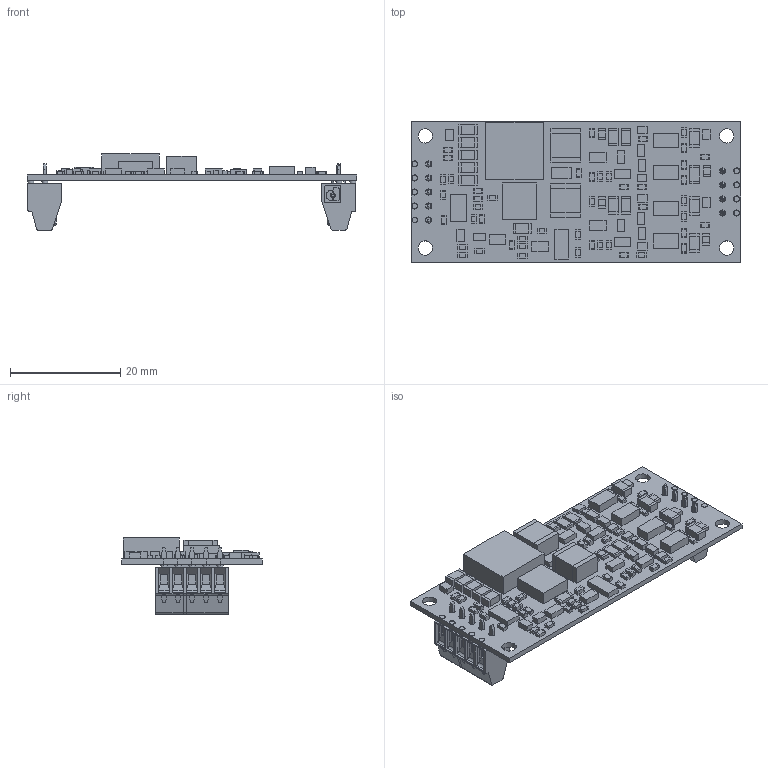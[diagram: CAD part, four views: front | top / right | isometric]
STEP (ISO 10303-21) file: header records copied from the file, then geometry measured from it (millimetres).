
FILE_DESCRIPTION(('Open CASCADE Model'),'2;1');
FILE_NAME('Open CASCADE Shape Model','2026-04-29T09:07:18',('Author'),( 'Open CASCADE'),'Open CASCADE STEP processor 7.5','Open CASCADE 7.5' ,'Unknown');
FILE_SCHEMA(('AUTOMOTIVE_DESIGN { 1 0 10303 214 1 1 1 1 }'));
Length unit declared in the file: millimetre
Products named in the file (182): PCB; Board; Open CASCADE STEP translator 7.5 2.1.1; J_3; 1725656; mpt_0.5-2-2.54; J_2; J_1; pxc_1725669_05_MPT-0-5-3-2-54_3D; mpt_0.5-3-2.54; J_; P_; 61300411121; 6130xx11121_PIN; U5; 8806760240; Extruded; R22; 8702429200; 8702428672; D6; 8702836160; R13; 8702840720; 8702841008; R18; R24; R19; R25; 8702839664; 8702840192; R26; R20; R17; R16; R15; C17; 8702427136; 8702426896; C21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
Assembly tree (382 placements, depth 4):
  PCB
    Board
      Open CASCADE STEP translator 7.5 2.1.1
    J_3
      1725656
        mpt_0.5-2-2.54
    J_2
      1725656
        mpt_0.5-2-2.54
    J_1
      pxc_1725669_05_MPT-0-5-3-2-54_3D
        mpt_0.5-3-2.54
    J_
      1725656
        mpt_0.5-2-2.54
    P_
      61300411121
        6130xx11121_PIN  x4
        61300411121
    U5
      8806760240
        Extruded
    R22
      8702429200  x2
        Extruded
      8702428672
        Extruded
    D6
      8702836160
        Extruded
    R13
      8702840720  x2
        Extruded
      8702841008
        Extruded
    R18
      8702429200  x2
        Extruded
      8702428672
        Extruded
    R24
      8702429200  x2
        Extruded
      8702428672
        Extruded
    R19
      8702429200  x2
        Extruded
      8702428672
        Extruded
    R25
      8702839664
        Extruded
      8702840192  x2
        Extruded
    R26
      8702840720  x2
        Extruded
      8702841008
        Extruded
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Bounding box: 59.69 x 25.4 x 13.79 mm (x, y, z)
Volume: 3600 mm3; surface area: 7389.6 mm2
Topology: 241 solids, 241 shells, 2366 faces, 5221 edges, 3407 vertices
Faces by surface type: plane 2091, cylinder 257, sphere 18
Full cylindrical faces by diameter (mm): 1.1 x9, 2.6 x4
Entity records: 33023 total; most frequent: CARTESIAN_POINT 5443, DIRECTION 4710, ORIENTED_EDGE 3954, EDGE_CURVE 1977, LINE 1616, VECTOR 1616, AXIS2_PLACEMENT_3D 1547, VERTEX_POINT 1287
